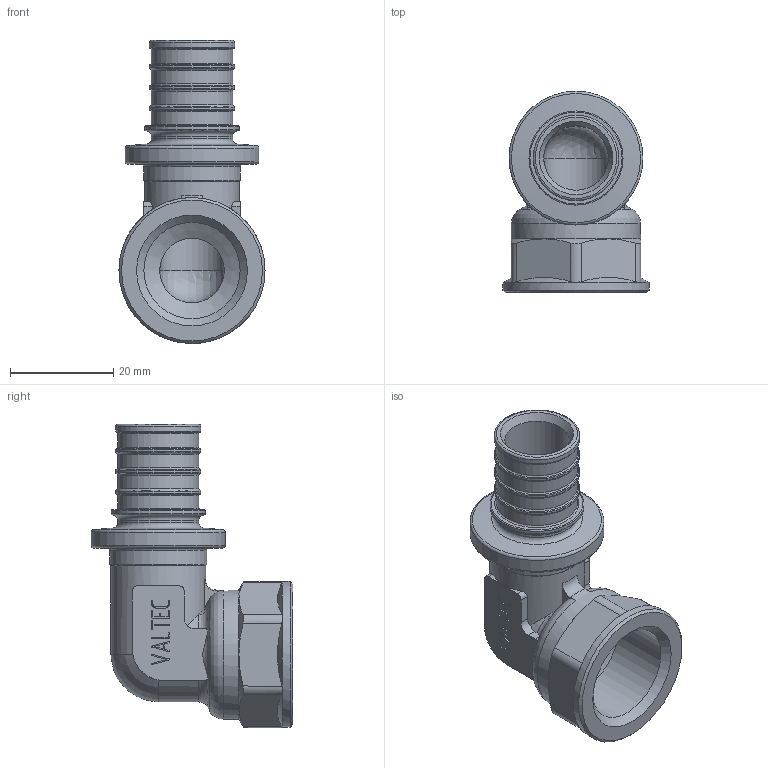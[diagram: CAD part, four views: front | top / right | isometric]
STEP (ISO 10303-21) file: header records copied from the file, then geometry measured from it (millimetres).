
FILE_DESCRIPTION(('STEP AP203'), '1');
FILE_NAME('ÂÐ.752213.008 - VTm.452.G.002004 - Ôèò. àêñ. óãîë', '', ('UNSPECIFIED'), ('UNSPECIFIED'), 'C3D Converter', 'C3D Toolkit', '');
FILE_SCHEMA(('CONFIG_CONTROL_DESIGN'));
Length unit declared in the file: millimetre
Products named in the file (1): ВР.752213.008
Bounding box: 28.25 x 38.95 x 58.62 mm (x, y, z)
Volume: 12110.1 mm3; surface area: 8760.1 mm2
Topology: 1 solids, 1 shells, 350 faces, 946 edges, 611 vertices
Faces by surface type: extrusion 142, plane 121, cylinder 39, torus 30, cone 14, bspline 2, sphere 2
Full cylindrical faces by diameter (mm): 12.5 x2, 15.7 x5, 16.5 x4, 18.2 x1, 18.3 x1, 18.632 x1, 18.7 x1, 25 x1, 25.9 x1, 28.25 x1
Entity records: 15305 total; most frequent: CARTESIAN_POINT 4526, ORIENTED_EDGE 1790, DIRECTION 1190, EDGE_CURVE 895, VERTEX_POINT 611, VECTOR 580, B_SPLINE_CURVE_WITH_KNOTS 496, LINE 438
